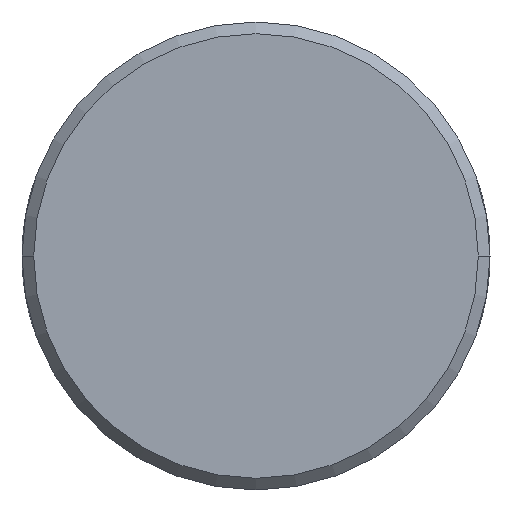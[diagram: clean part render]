
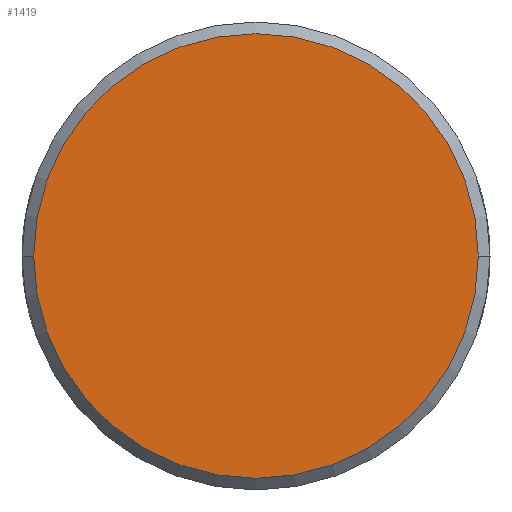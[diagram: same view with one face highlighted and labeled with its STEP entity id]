
A CAD part, front view. The second image highlights one B-rep face of the part: STEP entity #1419.
In plain terms, the highlighted planar face has unit normal (0, -1, 0).
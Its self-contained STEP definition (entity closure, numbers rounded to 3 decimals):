
#1=CARTESIAN_POINT('',(0.,-35.,0.));
#2=DIRECTION('',(0.,-1.,0.));
#3=DIRECTION('',(-1.,0.,0.));
#4=AXIS2_PLACEMENT_3D('',#1,#2,#3);
#6=CARTESIAN_POINT('',(0.,-35.,0.));
#7=DIRECTION('',(0.,-1.,0.));
#8=DIRECTION('',(1.,0.,0.));
#9=AXIS2_PLACEMENT_3D('',#6,#7,#8);
#1325=CARTESIAN_POINT('',(-5.7,-35.,0.));
#1326=CARTESIAN_POINT('',(5.7,-35.,0.));
#1327=VERTEX_POINT('',#1325);
#1328=VERTEX_POINT('',#1326);
#1408=CARTESIAN_POINT('',(0.,-35.,0.));
#1409=DIRECTION('',(0.,1.,0.));
#1410=DIRECTION('',(1.,0.,0.));
#1411=AXIS2_PLACEMENT_3D('',#1408,#1409,#1410);
#1412=PLANE('',#1411);
#1414=ORIENTED_EDGE('',*,*,#1413,.F.);
#1416=ORIENTED_EDGE('',*,*,#1415,.F.);
#1417=EDGE_LOOP('',(#1414,#1416));
#1418=FACE_OUTER_BOUND('',#1417,.F.);
#1419=ADVANCED_FACE('',(#1418),#1412,.F.);
#5=CIRCLE('',#4,5.7);
#10=CIRCLE('',#9,5.7);
#1413=EDGE_CURVE('',#1327,#1328,#5,.T.);
#1415=EDGE_CURVE('',#1328,#1327,#10,.T.);
